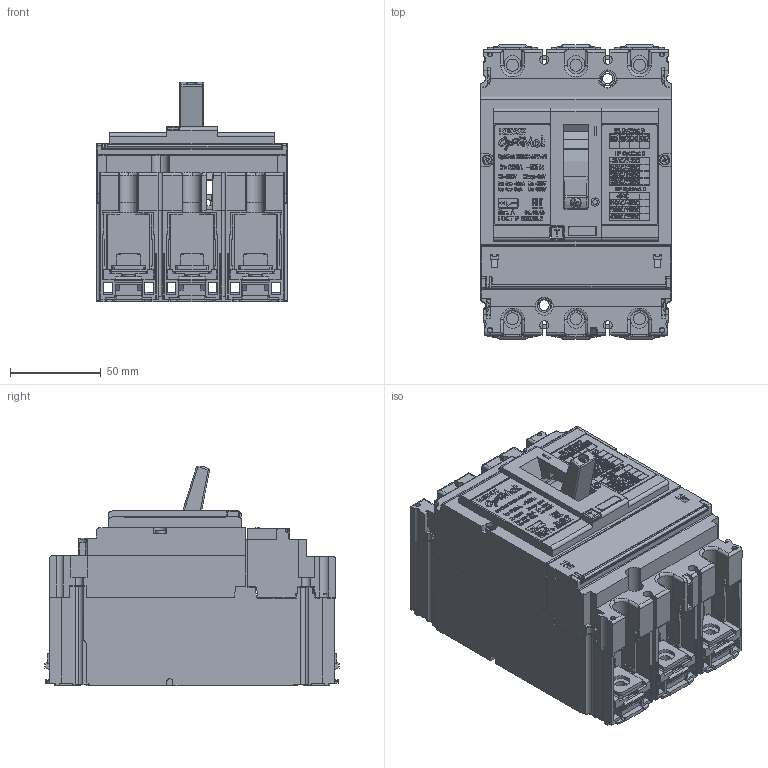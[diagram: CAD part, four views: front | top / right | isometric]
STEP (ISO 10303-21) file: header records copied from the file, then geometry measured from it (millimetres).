
FILE_DESCRIPTION (( 'STEP AP203' ), '1' );
FILE_NAME ('Âûêëþ÷àòåëü Optimat 250 ÃÆÈÊ.641353.067.STEP', '2016-06-09T11:43:45', ( '1' ), ( '' ), 'SwSTEP 2.0', 'SolidWorks 2012', '' );
FILE_SCHEMA (( 'CONFIG_CONTROL_DESIGN' ));
Products named in the file (1): Âûêëþ÷àòåëü Optimat 250 ÃÆÈÊ.641353.067
Bounding box: 105 x 162.4 x 121.41 mm (x, y, z)
Surface area: 161095.1 mm2 (no closed solid volume)
Topology: 0 solids, 148 shells, 2902 faces, 15420 edges, 12252 vertices
Faces by surface type: plane 1966, cylinder 484, bspline 358, torus 46, cone 32, sphere 16
Entity records: 191028 total; most frequent: CARTESIAN_POINT 80778, ORIENTED_EDGE 21112, DIRECTION 18763, EDGE_CURVE 15398, VERTEX_POINT 12252, VECTOR 10361, LINE 10361, AXIS2_PLACEMENT_3D 4201
